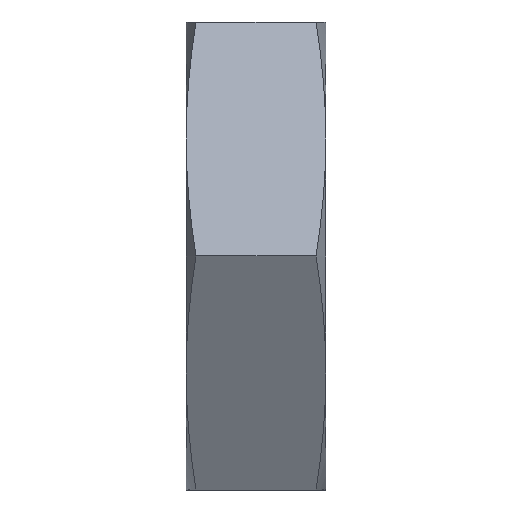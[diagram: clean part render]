
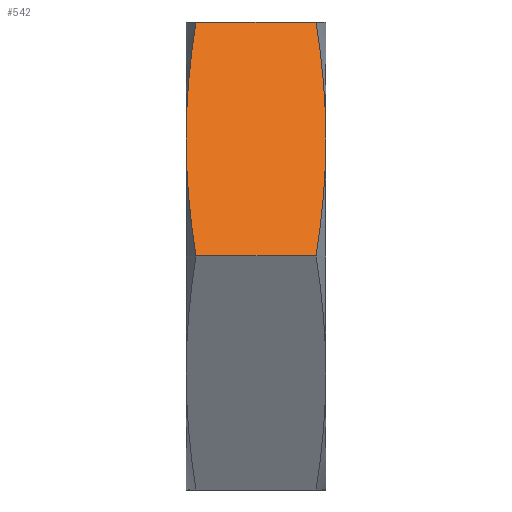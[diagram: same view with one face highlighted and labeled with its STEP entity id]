
A CAD part, front view. The second image highlights one B-rep face of the part: STEP entity #542.
In plain terms, the highlighted planar face has unit normal (0, -0.866, 0.5).
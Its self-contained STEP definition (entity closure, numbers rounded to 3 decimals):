
#2 = CARTESIAN_POINT ( 'NONE',  ( 0.625, -17.413, 0. ) ) ;
#3 = CARTESIAN_POINT ( 'NONE',  ( 8.375, -17.413, 0. ) ) ;
#4 = DIRECTION ( 'NONE',  ( -1., 0., 0. ) ) ;
#5 = VECTOR ( 'NONE', #4, 1000. ) ;
#6 = B_SPLINE_CURVE_WITH_KNOTS ( 'NONE', 3,
 ( #121, #120, #119, #118, #117, #116 ),
 .UNSPECIFIED., .F., .F.,
 ( 4, 2, 4 ),
 ( 0., 0.004, 0.009 ),
 .UNSPECIFIED. ) ;
#23 = CARTESIAN_POINT ( 'NONE',  ( 8.375, -8.706, 15.08 ) ) ;
#26 = B_SPLINE_CURVE_WITH_KNOTS ( 'NONE', 3,
 ( #23, #142, #141, #140, #139, #138 ),
 .UNSPECIFIED., .F., .F.,
 ( 4, 2, 4 ),
 ( 0., 0.004, 0.009 ),
 .UNSPECIFIED. ) ;
#52 = CARTESIAN_POINT ( 'NONE',  ( 8.375, -17.413, 0. ) ) ;
#53 = CARTESIAN_POINT ( 'NONE',  ( 8.569, -16.687, 1.257 ) ) ;
#54 = CARTESIAN_POINT ( 'NONE',  ( 8.727, -15.962, 2.513 ) ) ;
#55 = CARTESIAN_POINT ( 'NONE',  ( 8.943, -14.511, 5.027 ) ) ;
#56 = CARTESIAN_POINT ( 'NONE',  ( 9., -13.785, 6.283 ) ) ;
#57 = CARTESIAN_POINT ( 'NONE',  ( 9., -13.06, 7.54 ) ) ;
#60 = CARTESIAN_POINT ( 'NONE',  ( 9., -13.06, 7.54 ) ) ;
#61 = B_SPLINE_CURVE_WITH_KNOTS ( 'NONE', 3,
 ( #57, #56, #55, #54, #53, #52 ),
 .UNSPECIFIED., .F., .F.,
 ( 4, 2, 4 ),
 ( 0.009, 0.013, 0.017 ),
 .UNSPECIFIED. ) ;
#106 = CARTESIAN_POINT ( 'NONE',  ( 0., -13.06, 7.54 ) ) ;
#116 = CARTESIAN_POINT ( 'NONE',  ( 0., -13.06, 7.54 ) ) ;
#117 = CARTESIAN_POINT ( 'NONE',  ( 0., -13.785, 6.283 ) ) ;
#118 = CARTESIAN_POINT ( 'NONE',  ( 0.057, -14.511, 5.027 ) ) ;
#119 = CARTESIAN_POINT ( 'NONE',  ( 0.273, -15.962, 2.513 ) ) ;
#120 = CARTESIAN_POINT ( 'NONE',  ( 0.431, -16.687, 1.257 ) ) ;
#121 = CARTESIAN_POINT ( 'NONE',  ( 0.625, -17.413, 0. ) ) ;
#138 = CARTESIAN_POINT ( 'NONE',  ( 9., -13.06, 7.54 ) ) ;
#139 = CARTESIAN_POINT ( 'NONE',  ( 9., -12.334, 8.797 ) ) ;
#140 = CARTESIAN_POINT ( 'NONE',  ( 8.943, -11.609, 10.053 ) ) ;
#141 = CARTESIAN_POINT ( 'NONE',  ( 8.727, -10.158, 12.567 ) ) ;
#142 = CARTESIAN_POINT ( 'NONE',  ( 8.569, -9.432, 13.823 ) ) ;
#165 = CARTESIAN_POINT ( 'NONE',  ( 9., -17.413, 0. ) ) ;
#166 = LINE ( 'NONE', #165, #5 ) ;
#218 = B_SPLINE_CURVE_WITH_KNOTS ( 'NONE', 3,
 ( #257, #256, #245, #244, #243, #242 ),
 .UNSPECIFIED., .F., .F.,
 ( 4, 2, 4 ),
 ( 0.009, 0.013, 0.017 ),
 .UNSPECIFIED. ) ;
#242 = CARTESIAN_POINT ( 'NONE',  ( 0.625, -8.706, 15.08 ) ) ;
#243 = CARTESIAN_POINT ( 'NONE',  ( 0.431, -9.432, 13.823 ) ) ;
#244 = CARTESIAN_POINT ( 'NONE',  ( 0.273, -10.158, 12.567 ) ) ;
#245 = CARTESIAN_POINT ( 'NONE',  ( 0.057, -11.609, 10.053 ) ) ;
#256 = CARTESIAN_POINT ( 'NONE',  ( 0., -12.334, 8.797 ) ) ;
#257 = CARTESIAN_POINT ( 'NONE',  ( 0., -13.06, 7.54 ) ) ;
#481 = CARTESIAN_POINT ( 'NONE',  ( 8.375, -8.706, 15.08 ) ) ;
#536 = VERTEX_POINT ( 'NONE', #803 ) ;
#538 = EDGE_CURVE ( 'NONE', #605, #536, #750, .T. ) ;
#542 = ADVANCED_FACE ( 'NONE', ( #674 ), #673, .F. ) ;
#576 = EDGE_LOOP ( 'NONE', ( #650, #701, #763, #736, #724, #796 ) ) ;
#605 = VERTEX_POINT ( 'NONE', #481 ) ;
#650 = ORIENTED_EDGE ( 'NONE', *, *, #680, .F. ) ;
#669 = DIRECTION ( 'NONE',  ( 0., 0.5, 0.866 ) ) ;
#670 = DIRECTION ( 'NONE',  ( 0., 0.866, -0.5 ) ) ;
#671 = CARTESIAN_POINT ( 'NONE',  ( 9., -28.638, -19.442 ) ) ;
#672 = AXIS2_PLACEMENT_3D ( 'NONE', #671, #670, #669 ) ;
#673 = PLANE ( 'NONE',  #672 ) ;
#674 = FACE_OUTER_BOUND ( 'NONE', #576, .T. ) ;
#676 = DIRECTION ( 'NONE',  ( -1., 0., 0. ) ) ;
#677 = VECTOR ( 'NONE', #676, 1000. ) ;
#678 = CARTESIAN_POINT ( 'NONE',  ( 9., -8.706, 15.08 ) ) ;
#679 = VERTEX_POINT ( 'NONE', #106 ) ;
#680 = EDGE_CURVE ( 'NONE', #704, #679, #6, .T. ) ;
#701 = ORIENTED_EDGE ( 'NONE', *, *, #702, .F. ) ;
#702 = EDGE_CURVE ( 'NONE', #703, #704, #166, .T. ) ;
#703 = VERTEX_POINT ( 'NONE', #3 ) ;
#704 = VERTEX_POINT ( 'NONE', #2 ) ;
#724 = ORIENTED_EDGE ( 'NONE', *, *, #538, .T. ) ;
#736 = ORIENTED_EDGE ( 'NONE', *, *, #737, .F. ) ;
#737 = EDGE_CURVE ( 'NONE', #605, #765, #26, .T. ) ;
#750 = LINE ( 'NONE', #678, #677 ) ;
#763 = ORIENTED_EDGE ( 'NONE', *, *, #764, .F. ) ;
#764 = EDGE_CURVE ( 'NONE', #765, #703, #61, .T. ) ;
#765 = VERTEX_POINT ( 'NONE', #60 ) ;
#796 = ORIENTED_EDGE ( 'NONE', *, *, #797, .F. ) ;
#797 = EDGE_CURVE ( 'NONE', #679, #536, #218, .T. ) ;
#803 = CARTESIAN_POINT ( 'NONE',  ( 0.625, -8.706, 15.08 ) ) ;
